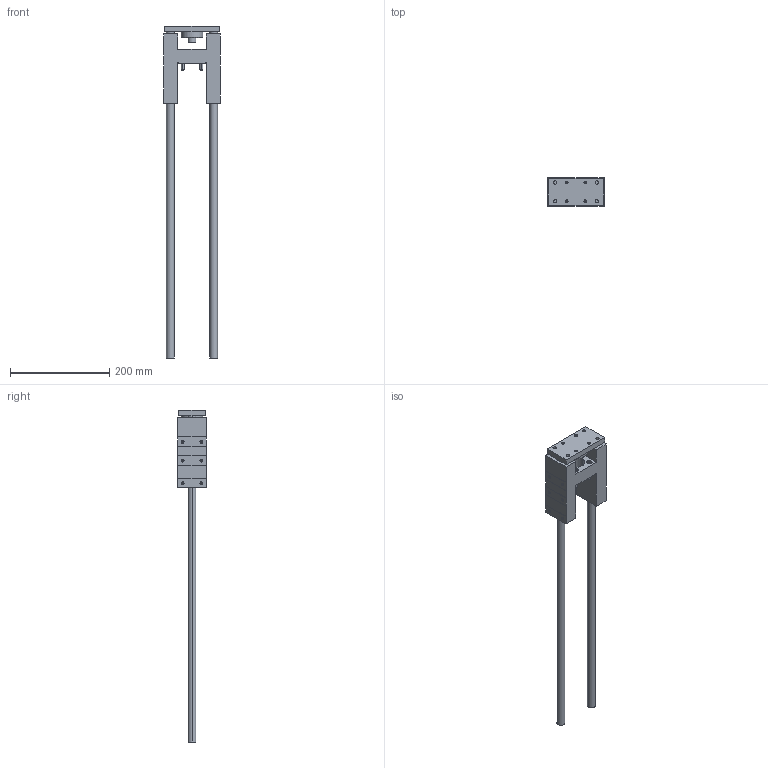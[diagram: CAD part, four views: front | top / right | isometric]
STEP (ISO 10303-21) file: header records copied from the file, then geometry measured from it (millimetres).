
FILE_DESCRIPTION (( 'STEP AP203' ), '1' );
FILE_NAME ('GB40-500.STEP', '2020-04-24T11:23:24', ( '' ), ( '' ), 'SwSTEP 2.0', 'SolidWorks 2019', '' );
FILE_SCHEMA (( 'CONFIG_CONTROL_DESIGN' ));
Length unit declared in the file: millimetre
Products named in the file (1): GB40-500
Bounding box: 115 x 58 x 670 mm (x, y, z)
Volume: 812672 mm3; surface area: 172738.4 mm2
Topology: 6 solids, 6 shells, 357 faces, 802 edges, 456 vertices
Faces by surface type: cone 142, plane 113, cylinder 102
Entity records: 10283 total; most frequent: CARTESIAN_POINT 2222, DIRECTION 1796, ORIENTED_EDGE 1532, EDGE_CURVE 766, AXIS2_PLACEMENT_3D 700, VERTEX_POINT 456, EDGE_LOOP 422, VECTOR 396
